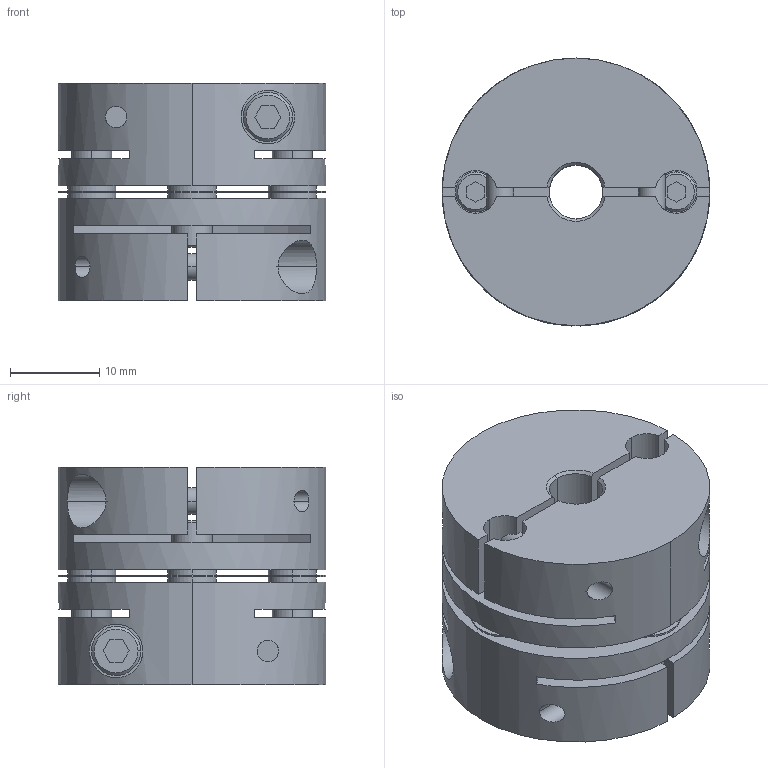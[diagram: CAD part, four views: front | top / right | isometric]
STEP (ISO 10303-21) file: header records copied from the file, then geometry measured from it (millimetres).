
FILE_DESCRIPTION((''),'2;1');
FILE_NAME('LAS-30C-6×6.stp','2011-08-10T13:01:10',(''),(''),'AutoCAD STEP 2000i','AutoCAD 2000i',', , ');
FILE_SCHEMA(('CONFIG_CONTROL_DESIGN'));
Length unit declared in the file: millimetre
Products named in the file (5): LAS-30C-6×6; 忣兜1; LA-3002-D06-1; LA-3002-D06; LAS30-ITA
Assembly tree (4 placements, depth 2):
  LAS-30C-6×6
    忣兜1
    LA-3002-D06-1
    LA-3002-D06
    LAS30-ITA
Bounding box: 30 x 30 x 24.4 mm (x, y, z)
Volume: 13761 mm3; surface area: 9269.9 mm2
Topology: 1 solids, 1 shells, 236 faces, 624 edges, 408 vertices
Faces by surface type: plane 112, cylinder 96, cone 28
Entity records: 8139 total; most frequent: CARTESIAN_POINT 1945, DIRECTION 1302, ORIENTED_EDGE 1248, EDGE_CURVE 624, AXIS2_PLACEMENT_3D 477, VERTEX_POINT 408, VECTOR 348, LINE 348
